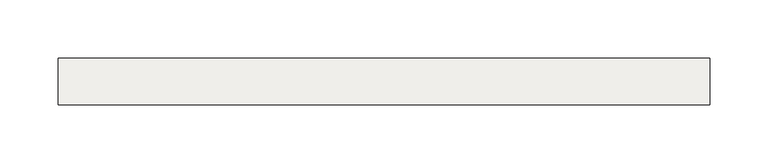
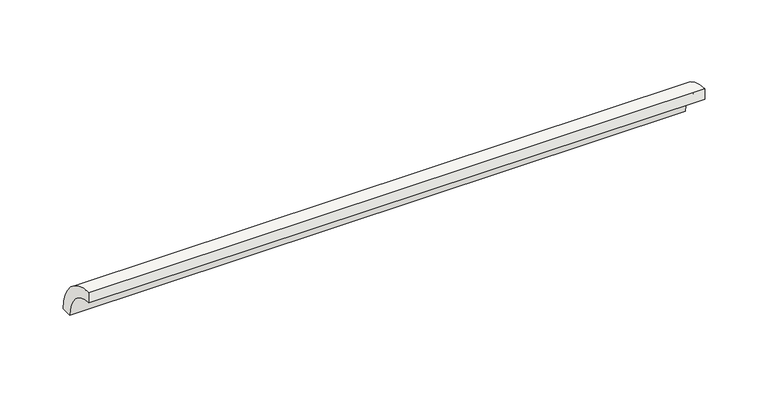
"""IFC4 building model written with IfcOpenShell, lengths in millimetres: slab geometry, ROSA GRES_138 : Pieza 138_Aqua_Plomo_Anti-Slip."""

from ifc_helpers import new_model, si_unit, point, frame, frame_2d, origin, origin_2d, place, context, project, spatial, polyline, circle_curve, trimmed, segment, composite_curve, outline, extrude, source, transform, mapped, element, save


def slab_cda4063a(model_context):
    return source(origin(), model_context, "Body", "SweptSolid", [
        extrude(outline(composite_curve([segment(trimmed(circle_curve(origin_2d(), 40.0), [point((0.0, 40.0))], [point((40.0, 0.0))], False, "CARTESIAN"), True, "CONTINUOUS"), segment(polyline([(40.0, 0.0), (30.0265886, 0.0)]), True, "CONTINUOUS"), segment(trimmed(circle_curve(frame_2d((0.0044453, 0.0044453)), 30.0221435), [point((30.0265886, 0.0))], [point((0.0, 30.0265886))], True, "CARTESIAN"), True, "CONTINUOUS"), segment(polyline([(0.0, 30.0265886), (0.0, 40.0)]), True, "CONTINUOUS")], self_intersect=False)), frame((0.0, 0.0, 0.0), z_axis=(1.0, 0.0, 0.0), x_axis=(0.0, 1.0, 0.0)), (0.0, 0.0, 1.0), 560.0),
    ])


if __name__ == "__main__":
    model = new_model("IFC4")
    model_context = context("Model", 3, world=origin())
    ifc_project = project(units=[si_unit("LENGTHUNIT", "METRE", prefix="MILLI")], contexts=[model_context])
    site = spatial("IfcSite", under=ifc_project)
    building = spatial("IfcBuilding", under=site)
    placement = place(None, origin())
    slab_shape = slab_cda4063a(model_context)
    element("IfcSlab", 1, ObjectType="ROSA GRES_138 : Pieza 138_Aqua_Plomo_Anti-Slip", at=placement, inside=building, context=model_context, shape_type="MappedRepresentation", body=[
        mapped(slab_shape, transform((0.0, 0.0, 0.0), x_axis=(1.0, 0.0, 0.0), y_axis=(0.0, 1.0, 0.0), z_axis=(0.0, 0.0, 1.0))),
    ])
    save(model, "model.ifc")
